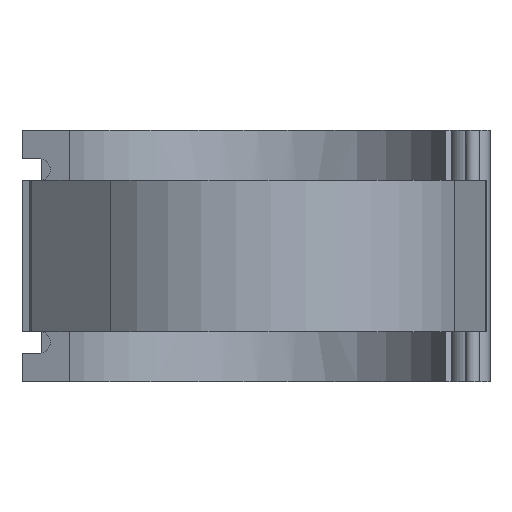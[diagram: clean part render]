
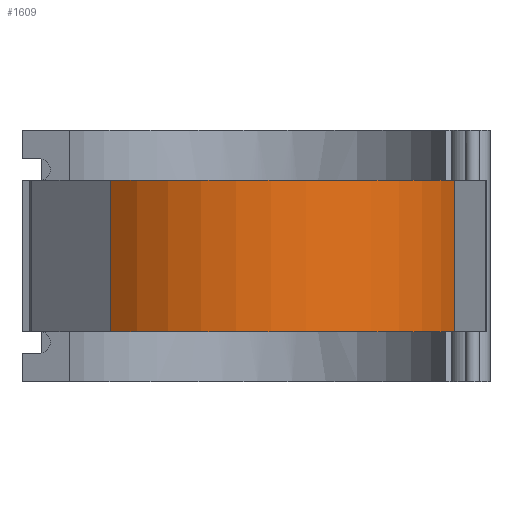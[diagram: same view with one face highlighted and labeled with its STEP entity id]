
A CAD part, front view. The second image highlights one B-rep face of the part: STEP entity #1609.
In plain terms, the highlighted cylindrical face has radius 144.2 mm (diameter 288.4 mm), a partial arc.
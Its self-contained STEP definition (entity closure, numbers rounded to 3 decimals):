
#189=FACE_OUTER_BOUND('',#299,.T.);
#299=EDGE_LOOP('',(#1461,#1462,#1463,#1464));
#391=CIRCLE('',#1797,144.2);
#394=CIRCLE('',#1801,144.2);
#511=LINE('',#3329,#624);
#515=LINE('',#3338,#628);
#624=VECTOR('',#2287,10.);
#628=VECTOR('',#2301,10.);
#773=VERTEX_POINT('',#3292);
#774=VERTEX_POINT('',#3294);
#777=VERTEX_POINT('',#3302);
#778=VERTEX_POINT('',#3304);
#990=EDGE_CURVE('',#773,#774,#391,.T.);
#995=EDGE_CURVE('',#777,#778,#394,.T.);
#1009=EDGE_CURVE('',#777,#774,#511,.T.);
#1013=EDGE_CURVE('',#773,#778,#515,.T.);
#1461=ORIENTED_EDGE('',*,*,#1013,.T.);
#1462=ORIENTED_EDGE('',*,*,#995,.F.);
#1463=ORIENTED_EDGE('',*,*,#1009,.T.);
#1464=ORIENTED_EDGE('',*,*,#990,.F.);
#1520=CYLINDRICAL_SURFACE('',#1816,144.2);
#1609=ADVANCED_FACE('',(#189),#1520,.T.);
#1797=AXIS2_PLACEMENT_3D('',#3295,#2249,#2250);
#1801=AXIS2_PLACEMENT_3D('',#3305,#2259,#2260);
#1816=AXIS2_PLACEMENT_3D('',#3339,#2302,#2303);
#2249=DIRECTION('center_axis',(0.,0.,-1.));
#2250=DIRECTION('ref_axis',(0.713,0.702,0.));
#2259=DIRECTION('center_axis',(0.,0.,1.));
#2260=DIRECTION('ref_axis',(0.713,0.702,0.));
#2287=DIRECTION('',(0.,0.,-1.));
#2301=DIRECTION('',(0.,0.,1.));
#2302=DIRECTION('center_axis',(0.,0.,1.));
#2303=DIRECTION('ref_axis',(0.713,0.702,0.));
#3292=CARTESIAN_POINT('',(137.73,-42.71,-52.8));
#3294=CARTESIAN_POINT('',(-102.749,-101.175,-52.8));
#3295=CARTESIAN_POINT('Origin',(0.,0.,
-52.8));
#3302=CARTESIAN_POINT('',(-102.749,-101.175,52.8));
#3304=CARTESIAN_POINT('',(137.73,-42.71,52.8));
#3305=CARTESIAN_POINT('Origin',(0.,0.,
52.8));
#3329=CARTESIAN_POINT('',(-102.749,-101.175,0.));
#3338=CARTESIAN_POINT('',(137.73,-42.71,0.));
#3339=CARTESIAN_POINT('Origin',(0.,0.,
0.));
